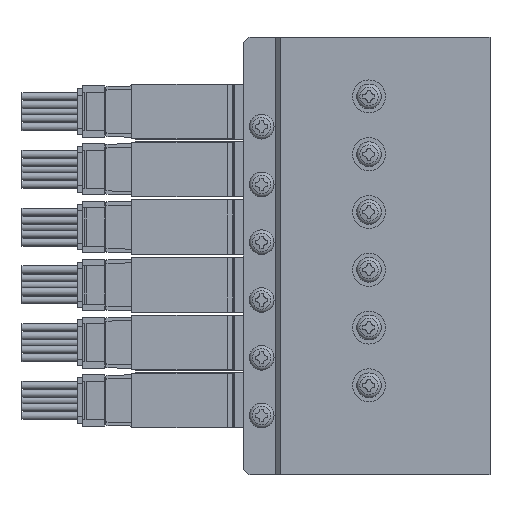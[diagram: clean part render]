
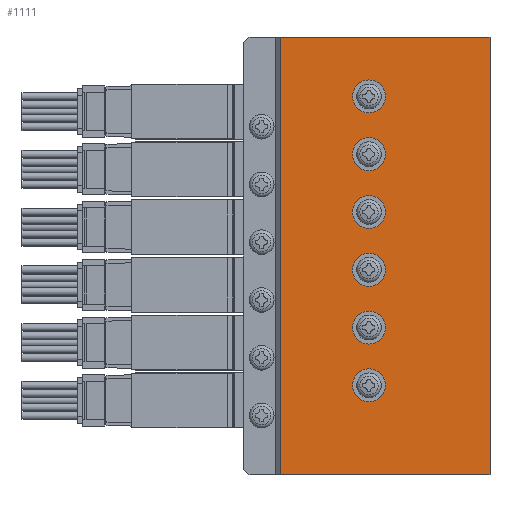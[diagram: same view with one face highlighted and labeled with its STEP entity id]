
A CAD part, left-side view. The second image highlights one B-rep face of the part: STEP entity #1111.
In plain terms, the highlighted planar face has unit normal (-1, 0, 0) as drawn and (1, 0, 0) by its records, which use the part's own axes.
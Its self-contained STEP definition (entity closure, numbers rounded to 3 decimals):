
#1111=ADVANCED_FACE('',(#2571,#2572,#2573,#2574,#2575,#2576,#2577),#2578,.F.);
#2571=FACE_OUTER_BOUND('',#4128,.T.);
#2572=FACE_BOUND('',#4129,.T.);
#2573=FACE_BOUND('',#4130,.T.);
#2574=FACE_BOUND('',#4131,.T.);
#2575=FACE_BOUND('',#4132,.T.);
#2576=FACE_BOUND('',#4133,.T.);
#2577=FACE_BOUND('',#4134,.T.);
#2578=PLANE('',#4135);
#4128=EDGE_LOOP('',(#8906,#8907,#8908,#8909));
#4129=EDGE_LOOP('',(#8910));
#4130=EDGE_LOOP('',(#8911));
#4131=EDGE_LOOP('',(#8912));
#4132=EDGE_LOOP('',(#8913));
#4133=EDGE_LOOP('',(#8914));
#4134=EDGE_LOOP('',(#8915));
#4135=AXIS2_PLACEMENT_3D('',#8916,#8917,#8918);
#8906=ORIENTED_EDGE('',*,*,#10409,.T.);
#8907=ORIENTED_EDGE('',*,*,#10717,.F.);
#8908=ORIENTED_EDGE('',*,*,#10401,.F.);
#8909=ORIENTED_EDGE('',*,*,#10772,.T.);
#8910=ORIENTED_EDGE('',*,*,#10773,.F.);
#8911=ORIENTED_EDGE('',*,*,#10581,.F.);
#8912=ORIENTED_EDGE('',*,*,#10478,.F.);
#8913=ORIENTED_EDGE('',*,*,#10481,.F.);
#8914=ORIENTED_EDGE('',*,*,#10588,.F.);
#8915=ORIENTED_EDGE('',*,*,#10774,.F.);
#8916=CARTESIAN_POINT('',(19.0,0.0,39.75));
#8917=DIRECTION('',(-1.0,0.0,0.0));
#8918=DIRECTION('',(0.0,0.0,1.0));
#10401=EDGE_CURVE('',#12738,#12740,#12741,.T.);
#10409=EDGE_CURVE('',#12755,#12753,#12756,.T.);
#10478=EDGE_CURVE('',#12873,#12873,#12874,.T.);
#10481=EDGE_CURVE('',#12879,#12879,#12880,.T.);
#10581=EDGE_CURVE('',#13051,#13051,#13052,.T.);
#10588=EDGE_CURVE('',#13064,#13064,#13065,.T.);
#10717=EDGE_CURVE('',#12740,#12753,#13265,.T.);
#10772=EDGE_CURVE('',#12738,#12755,#13348,.T.);
#10773=EDGE_CURVE('',#13349,#13349,#13350,.T.);
#10774=EDGE_CURVE('',#13351,#13351,#13352,.T.);
#12738=VERTEX_POINT('',#17281);
#12740=VERTEX_POINT('',#17284);
#12741=LINE('',#17285,#17286);
#12753=VERTEX_POINT('',#17302);
#12755=VERTEX_POINT('',#17305);
#12756=LINE('',#17306,#17307);
#12873=VERTEX_POINT('',#17528);
#12874=CIRCLE('',#17529,3.0);
#12879=VERTEX_POINT('',#17534);
#12880=CIRCLE('',#17535,3.0);
#13051=VERTEX_POINT('',#17882);
#13052=CIRCLE('',#17883,3.0);
#13064=VERTEX_POINT('',#17897);
#13065=CIRCLE('',#17898,3.0);
#13265=LINE('',#18269,#18270);
#13348=LINE('',#18429,#18430);
#13349=VERTEX_POINT('',#18431);
#13350=CIRCLE('',#18432,3.0);
#13351=VERTEX_POINT('',#18433);
#13352=CIRCLE('',#18434,3.0);
#17281=CARTESIAN_POINT('',(19.0,0.0,39.75));
#17284=CARTESIAN_POINT('',(19.0,38.0,39.75));
#17285=CARTESIAN_POINT('',(19.0,0.0,39.75));
#17286=VECTOR('',#20019,1.0);
#17302=CARTESIAN_POINT('',(19.0,38.0,-39.75));
#17305=CARTESIAN_POINT('',(19.0,0.0,-39.75));
#17306=CARTESIAN_POINT('',(19.0,0.0,-39.75));
#17307=VECTOR('',#20031,1.0);
#17528=CARTESIAN_POINT('',(19.0,22.0,-21.5));
#17529=AXIS2_PLACEMENT_3D('',#20143,#20144,#20145);
#17534=CARTESIAN_POINT('',(19.0,22.0,-11.0));
#17535=AXIS2_PLACEMENT_3D('',#20152,#20153,#20154);
#17882=CARTESIAN_POINT('',(19.0,22.0,-32.0));
#17883=AXIS2_PLACEMENT_3D('',#20315,#20316,#20317);
#17897=CARTESIAN_POINT('',(19.0,22.0,-0.5));
#17898=AXIS2_PLACEMENT_3D('',#20332,#20333,#20334);
#18269=CARTESIAN_POINT('',(19.0,38.0,39.75));
#18270=VECTOR('',#20559,1.0);
#18429=CARTESIAN_POINT('',(19.0,0.0,39.75));
#18430=VECTOR('',#20658,1.0);
#18431=CARTESIAN_POINT('',(19.0,22.0,20.5));
#18432=AXIS2_PLACEMENT_3D('',#20659,#20660,#20661);
#18433=CARTESIAN_POINT('',(19.0,22.0,10.0));
#18434=AXIS2_PLACEMENT_3D('',#20662,#20663,#20664);
#20019=DIRECTION('',(0.0,1.0,0.0));
#20031=DIRECTION('',(0.0,1.0,0.0));
#20143=CARTESIAN_POINT('',(19.0,22.0,-18.5));
#20144=DIRECTION('',(1.0,0.0,0.0));
#20145=DIRECTION('',(0.0,0.0,-1.0));
#20152=CARTESIAN_POINT('',(19.0,22.0,-8.0));
#20153=DIRECTION('',(1.0,0.0,0.0));
#20154=DIRECTION('',(0.0,0.0,-1.0));
#20315=CARTESIAN_POINT('',(19.0,22.0,-29.0));
#20316=DIRECTION('',(1.0,0.0,0.0));
#20317=DIRECTION('',(0.0,0.0,-1.0));
#20332=CARTESIAN_POINT('',(19.0,22.0,2.5));
#20333=DIRECTION('',(1.0,0.0,0.0));
#20334=DIRECTION('',(0.0,0.0,-1.0));
#20559=DIRECTION('',(0.0,0.0,-1.0));
#20658=DIRECTION('',(0.0,0.0,-1.0));
#20659=CARTESIAN_POINT('',(19.0,22.0,23.5));
#20660=DIRECTION('',(1.0,0.0,0.0));
#20661=DIRECTION('',(0.0,0.0,-1.0));
#20662=CARTESIAN_POINT('',(19.0,22.0,13.0));
#20663=DIRECTION('',(1.0,0.0,0.0));
#20664=DIRECTION('',(0.0,0.0,-1.0));
